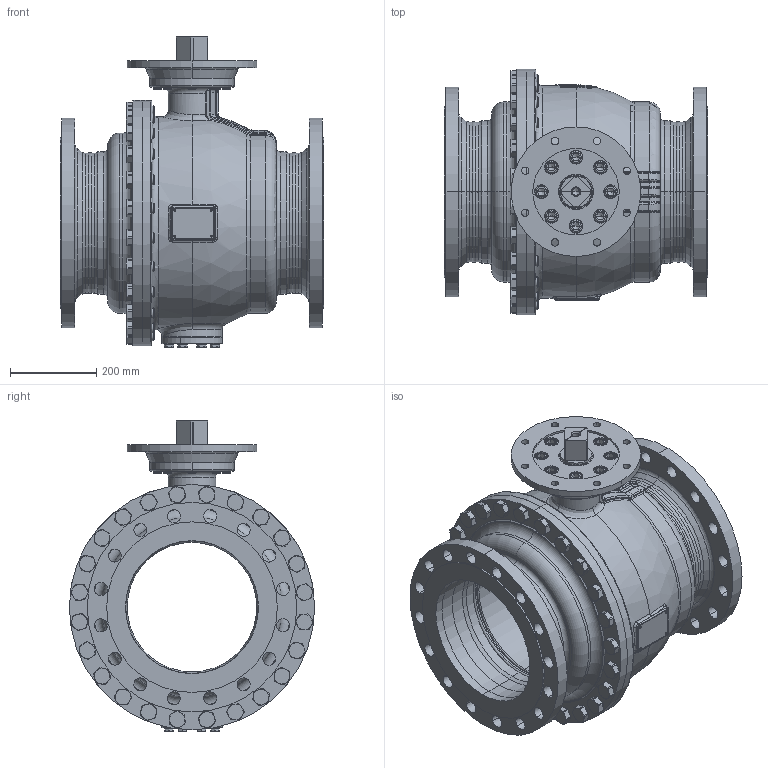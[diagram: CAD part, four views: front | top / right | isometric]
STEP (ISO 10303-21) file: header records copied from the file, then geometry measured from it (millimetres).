
FILE_DESCRIPTION((''),'2;1');
FILE_NAME('KHI-F_300-PN025-F25-4_SW0001','2026-02-05T14:56:57',('fischerkl'),('KLINGER'),'CREO PARAMETRIC BY PTC INC, 2023014','CREO PARAMETRIC BY PTC INC, 2023014','');
FILE_SCHEMA(('CONFIG_CONTROL_DESIGN'));
Products named in the file (1): KHI-F_300-PN025-F25-4_SW0001
Bounding box: 610 x 568 x 721.8 mm (x, y, z)
Volume: 31595102.8 mm3; surface area: 4593918.4 mm2
Topology: 1 solids, 4 shells, 3398 faces, 8608 edges, 5381 vertices
Faces by surface type: plane 1738, cylinder 775, cone 448, torus 297, bspline 111, sphere 29
Entity records: 144482 total; most frequent: CARTESIAN_POINT 63704, ORIENTED_EDGE 17164, DIRECTION 16560, EDGE_CURVE 8582, AXIS2_PLACEMENT_3D 6318, VERTEX_POINT 5381, VECTOR 3924, LINE 3924
